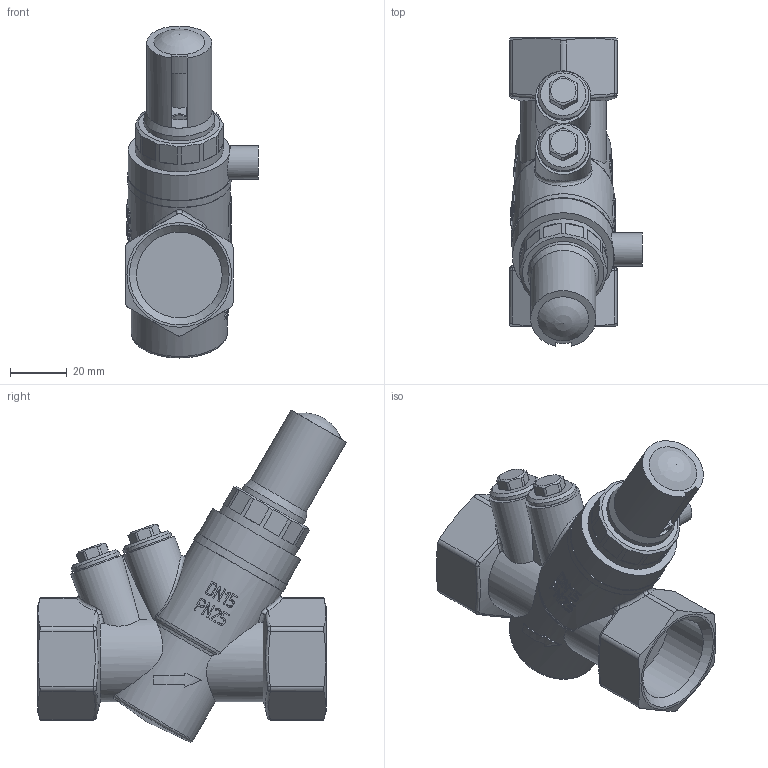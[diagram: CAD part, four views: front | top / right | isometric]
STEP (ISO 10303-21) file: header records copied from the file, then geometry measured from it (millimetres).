
FILE_DESCRIPTION(('STEP AP203'), '1');
FILE_NAME('VT.043.G.0601', '2024-09-18T06:44:58', ('User'), ('Vesta'), 'C3D Converter', 'C3D Toolkit', '');
FILE_SCHEMA(('CONFIG_CONTROL_DESIGN'));
Length unit declared in the file: millimetre
Products named in the file (1):  СБ
Bounding box: 47 x 109.16 x 117.41 mm (x, y, z)
Volume: 150710.7 mm3; surface area: 30261.8 mm2
Topology: 1 solids, 1 shells, 746 faces, 2054 edges, 1353 vertices
Faces by surface type: extrusion 329, plane 270, cylinder 80, bspline 45, cone 16, torus 5, sphere 1
Full cylindrical faces by diameter (mm): 6.647 x1, 11.9 x1, 16.2 x2, 18 x2, 23 x1, 25 x1, 30.292 x2, 31 x1, 36 x1, 36.6 x1
Entity records: 40468 total; most frequent: CARTESIAN_POINT 23741, ORIENTED_EDGE 4052, DIRECTION 2274, EDGE_CURVE 2026, VERTEX_POINT 1351, B_SPLINE_CURVE_WITH_KNOTS 1209, VECTOR 1086, EDGE_LOOP 815
